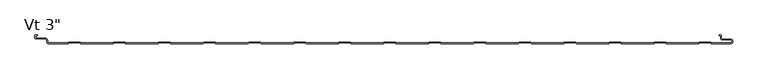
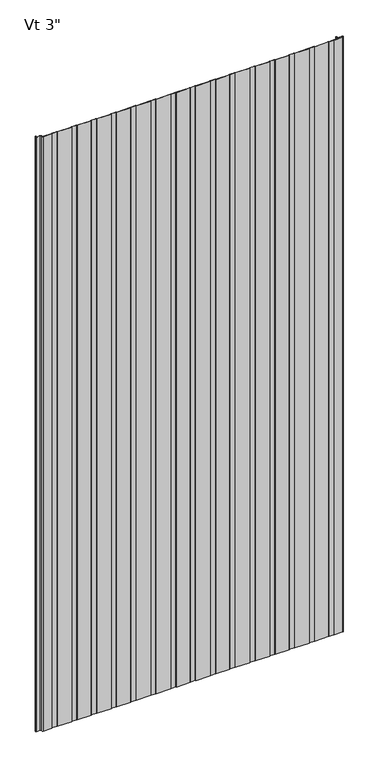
"""IFC4 building model written with IfcOpenShell, lengths in millimetres: plate geometry."""

from ifc_helpers import new_model, si_unit, frame, origin, place, context, project, spatial, polyline, circle_curve, source, transform, mapped, element, save
from ifc_brep_helpers import plane_surface, cylinder_surface, revolved_surface, advanced_brep


def plate_20951801(model_context):
    return source(origin(), model_context, "Body", "AdvancedBrep", [
        advanced_brep(
        [(390.6883592, -76.2, 2400.0), (445.2678137, -76.2, 2400.0), (446.3403385, -75.0088405, 2400.0), (465.2384546, -75.0088405, 2400.0), (466.3109794, -76.2, 2400.0), (520.890434, -76.2, 2400.0), (521.9629588, -75.0088405, 2400.0), (540.8610749, -75.0088405, 2400.0), (541.9335958, -76.1999956, 2400.0), (574.5475652, -76.1999956, 2400.0), (577.5248337, -73.2227271, 2400.0), (577.5248337, -72.1806285, 2400.0), (574.5475652, -69.20336, 2400.0), (560.3591801, -69.20336, 2400.0), (558.7713036, -67.6154834, 2400.0), (558.7713036, -63.2950653, 2400.0), (557.1304042, -61.7065979, 2400.0), (554.7857432, -61.7065979, 2400.0), (554.7857432, -62.7060718, 2400.0), (557.1628365, -62.7060718, 2400.0), (557.7713037, -63.2950653, 2400.0), (557.7713037, -67.6154834, 2400.0), (560.3591801, -70.20336, 2400.0), (574.5475652, -70.20336, 2400.0), (576.5248337, -72.1806285, 2400.0), (576.5248337, -73.2227271, 2400.0), (574.5475652, -75.1999956, 2400.0), (542.3760351, -75.1999956, 2400.0), (541.3035142, -74.0088405, 2400.0), (521.5205195, -74.0088405, 2400.0), (520.4479947, -75.2, 2400.0), (466.7534187, -75.2, 2400.0), (465.6808939, -74.0088405, 2400.0), (445.8978992, -74.0088405, 2400.0), (444.8253744, -75.2, 2400.0), (391.1307985, -75.2, 2400.0), (390.0582736, -74.0088405, 2400.0), (370.275279, -74.0088405, 2400.0), (369.2027541, -75.2, 2400.0), (315.5081782, -75.2, 2400.0), (314.4356534, -74.0088405, 2400.0), (294.6526587, -74.0088405, 2400.0), (293.5801339, -75.2, 2400.0), (239.885558, -75.2, 2400.0), (238.8130331, -74.0088405, 2400.0), (219.0300384, -74.0088405, 2400.0), (217.9575136, -75.2, 2400.0), (164.2629377, -75.2, 2400.0), (163.1904129, -74.0088405, 2400.0), (143.4074182, -74.0088405, 2400.0), (142.3348933, -75.2, 2400.0), (88.6403174, -75.2, 2400.0), (87.5677926, -74.0088405, 2400.0), (67.7847979, -74.0088405, 2400.0), (66.7122731, -75.2, 2400.0), (13.0176972, -75.2, 2400.0), (11.9451723, -74.0088405, 2400.0), (-7.8378224, -74.0088405, 2400.0), (-8.9103472, -75.2, 2400.0), (-62.6049231, -75.2, 2400.0), (-63.6774479, -74.0088405, 2400.0), (-83.4604426, -74.0088405, 2400.0), (-84.5329675, -75.2, 2400.0), (-138.2275434, -75.2, 2400.0), (-139.3000682, -74.0088405, 2400.0), (-159.0830629, -74.0088405, 2400.0), (-160.1555877, -75.2, 2400.0), (-213.8501636, -75.2, 2400.0), (-214.9226885, -74.0088405, 2400.0), (-234.7056831, -74.0088405, 2400.0), (-235.778208, -75.2, 2400.0), (-289.4727839, -75.2, 2400.0), (-290.5453087, -74.0088405, 2400.0), (-310.3283034, -74.0088405, 2400.0), (-311.4008282, -75.2, 2400.0), (-365.0954042, -75.2, 2400.0), (-366.167929, -74.0088405, 2400.0), (-385.9509237, -74.0088405, 2400.0), (-387.0234485, -75.2, 2400.0), (-440.7180244, -75.2, 2400.0), (-441.7905493, -74.0088405, 2400.0), (-461.5735439, -74.0088405, 2400.0), (-462.6460688, -75.2, 2400.0), (-516.3406447, -75.2, 2400.0), (-517.4131695, -74.0088405, 2400.0), (-537.1961642, -74.0088405, 2400.0), (-538.268689, -75.2, 2400.0), (-570.43528, -75.2, 2400.0), (-572.4125474, -73.2227096, 2400.0), (-572.4125474, -70.9308258, 2400.0), (-576.3898159, -66.9535573, 2400.0), (-591.9862419, -66.9535573, 2400.0), (-592.5741185, -66.3656807, 2400.0), (-592.5741185, -63.294132, 2400.0), (-591.9862419, -62.7062555, 2400.0), (-589.6312064, -62.7062555, 2400.0), (-589.6312064, -61.7062555, 2400.0), (-591.9862419, -61.7062555, 2400.0), (-593.5741185, -63.294132, 2400.0), (-593.5741185, -66.3656807, 2400.0), (-591.9862419, -67.9535573, 2400.0), (-576.3898159, -67.9535573, 2400.0), (-573.4125474, -70.9308258, 2400.0), (-573.4125474, -73.2227096, 2400.0), (-570.4352807, -76.1999782, 2400.0), (-537.8262497, -76.2, 2400.0), (-536.7537249, -75.0088405, 2400.0), (-517.8556088, -75.0088405, 2400.0), (-516.783084, -76.2, 2400.0), (-462.2036295, -76.2, 2400.0), (-461.1311046, -75.0088405, 2400.0), (-442.2329886, -75.0088405, 2400.0), (-441.1604637, -76.2, 2400.0), (-386.5810092, -76.2, 2400.0), (-385.5084844, -75.0088405, 2400.0), (-366.6103683, -75.0088405, 2400.0), (-365.5378435, -76.2, 2400.0), (-310.9583889, -76.2, 2400.0), (-309.8858641, -75.0088405, 2400.0), (-290.987748, -75.0088405, 2400.0), (-289.9152232, -76.2, 2400.0), (-235.3357687, -76.2, 2400.0), (-234.2632438, -75.0088405, 2400.0), (-215.3651278, -75.0088405, 2400.0), (-214.2926029, -76.2, 2400.0), (-159.7131484, -76.2, 2400.0), (-158.6406236, -75.0088405, 2400.0), (-139.7425075, -75.0088405, 2400.0), (-138.6699827, -76.2, 2400.0), (-84.0905281, -76.2, 2400.0), (-83.0180033, -75.0088405, 2400.0), (-64.1198873, -75.0088405, 2400.0), (-63.0473624, -76.2, 2400.0), (-8.4679079, -76.2, 2400.0), (-7.395383, -75.0088405, 2400.0), (11.502733, -75.0088405, 2400.0), (12.5752578, -76.2, 2400.0), (67.1547124, -76.2, 2400.0), (68.2272372, -75.0088405, 2400.0), (87.1253533, -75.0088405, 2400.0), (88.1978781, -76.2, 2400.0), (142.7773327, -76.2, 2400.0), (143.8498575, -75.0088405, 2400.0), (162.7479735, -75.0088405, 2400.0), (163.8204984, -76.2, 2400.0), (218.3999529, -76.2, 2400.0), (219.4724778, -75.0088405, 2400.0), (238.3705938, -75.0088405, 2400.0), (239.4431186, -76.2, 2400.0), (294.0225732, -76.2, 2400.0), (295.095098, -75.0088405, 2400.0), (313.9932141, -75.0088405, 2400.0), (315.0657389, -76.2, 2400.0), (369.6451934, -76.2, 2400.0), (370.7177183, -75.0088405, 2400.0), (389.6158343, -75.0088405, 2400.0), (390.6883592, -76.2, 0.0), (389.6158343, -75.0088405, 0.0), (370.7177183, -75.0088405, 0.0), (369.6451934, -76.2, 0.0), (315.0657389, -76.2, 0.0), (313.9932141, -75.0088405, 0.0), (295.095098, -75.0088405, 0.0), (294.0225732, -76.2, 0.0), (239.4431186, -76.2, 0.0), (238.3705938, -75.0088405, 0.0), (219.4724778, -75.0088405, 0.0), (218.3999529, -76.2, 0.0), (163.8204984, -76.2, 0.0), (162.7479735, -75.0088405, 0.0), (143.8498575, -75.0088405, 0.0), (142.7773327, -76.2, 0.0), (88.1978781, -76.2, 0.0), (87.1253533, -75.0088405, 0.0), (68.2272372, -75.0088405, 0.0), (67.1547124, -76.2, 0.0), (12.5752578, -76.2, 0.0), (11.502733, -75.0088405, 0.0), (-7.395383, -75.0088405, 0.0), (-8.4679079, -76.2, 0.0), (-63.0473624, -76.2, 0.0), (-64.1198873, -75.0088405, 0.0), (-83.0180033, -75.0088405, 0.0), (-84.0905281, -76.2, 0.0), (-138.6699827, -76.2, 0.0), (-139.7425075, -75.0088405, 0.0), (-158.6406236, -75.0088405, 0.0), (-159.7131484, -76.2, 0.0), (-214.2926029, -76.2, 0.0), (-215.3651278, -75.0088405, 0.0), (-234.2632438, -75.0088405, 0.0), (-235.3357687, -76.2, 0.0), (-289.9152232, -76.2, 0.0), (-290.987748, -75.0088405, 0.0), (-309.8858641, -75.0088405, 0.0), (-310.9583889, -76.2, 0.0), (-365.5378435, -76.2, 0.0), (-366.6103683, -75.0088405, 0.0), (-385.5084844, -75.0088405, 0.0), (-386.5810092, -76.2, 0.0), (-441.1604637, -76.2, 0.0), (-442.2329886, -75.0088405, 0.0), (-461.1311046, -75.0088405, 0.0), (-462.2036295, -76.2, 0.0), (-516.783084, -76.2, 0.0), (-517.8556088, -75.0088405, 0.0), (-536.7537249, -75.0088405, 0.0), (-537.8262497, -76.2, 0.0), (-570.4352807, -76.2, 0.0), (-573.4125474, -73.2227096, 0.0), (-573.4125474, -70.9308258, 0.0), (-576.3898159, -67.9535573, 0.0), (-591.9862419, -67.9535573, 0.0), (-593.5741185, -66.3656807, 0.0), (-593.5741185, -63.294132, 0.0), (-591.9862419, -61.7062555, 0.0), (-589.6312064, -61.7062555, 0.0), (-589.6312064, -62.7062555, 0.0), (-591.9862419, -62.7062555, 0.0), (-592.5741185, -63.294132, 0.0), (-592.5741185, -66.3656807, 0.0), (-591.9862419, -66.9535573, 0.0), (-576.3898159, -66.9535573, 0.0), (-572.4125474, -70.9308258, 0.0), (-572.4125474, -73.2227096, 0.0), (-570.43528, -75.1999782, 0.0), (-538.268689, -75.2, 0.0), (-537.1961642, -74.0088405, 0.0), (-517.4131695, -74.0088405, 0.0), (-516.3406447, -75.2, 0.0), (-462.6460688, -75.2, 0.0), (-461.5735439, -74.0088405, 0.0), (-441.7905493, -74.0088405, 0.0), (-440.7180244, -75.2, 0.0), (-387.0234485, -75.2, 0.0), (-385.9509237, -74.0088405, 0.0), (-366.167929, -74.0088405, 0.0), (-365.0954042, -75.2, 0.0), (-311.4008282, -75.2, 0.0), (-310.3283034, -74.0088405, 0.0), (-290.5453087, -74.0088405, 0.0), (-289.4727839, -75.2, 0.0), (-235.778208, -75.2, 0.0), (-234.7056831, -74.0088405, 0.0), (-214.9226885, -74.0088405, 0.0), (-213.8501636, -75.2, 0.0), (-160.1555877, -75.2, 0.0), (-159.0830629, -74.0088405, 0.0), (-139.3000682, -74.0088405, 0.0), (-138.2275434, -75.2, 0.0), (-84.5329675, -75.2, 0.0), (-83.4604426, -74.0088405, 0.0), (-63.6774479, -74.0088405, 0.0), (-62.6049231, -75.2, 0.0), (-8.9103472, -75.2, 0.0), (-7.8378224, -74.0088405, 0.0), (11.9451723, -74.0088405, 0.0), (13.0176972, -75.2, 0.0), (66.7122731, -75.2, 0.0), (67.7847979, -74.0088405, 0.0), (87.5677926, -74.0088405, 0.0), (88.6403174, -75.2, 0.0), (142.3348933, -75.2, 0.0), (143.4074182, -74.0088405, 0.0), (163.1904129, -74.0088405, 0.0), (164.2629377, -75.2, 0.0), (217.9575136, -75.2, 0.0), (219.0300384, -74.0088405, 0.0), (238.8130331, -74.0088405, 0.0), (239.885558, -75.2, 0.0), (293.5801339, -75.2, 0.0), (294.6526587, -74.0088405, 0.0), (314.4356534, -74.0088405, 0.0), (315.5081782, -75.2, 0.0), (369.2027541, -75.2, 0.0), (370.275279, -74.0088405, 0.0), (390.0582736, -74.0088405, 0.0), (391.1307985, -75.2, 0.0), (444.8253744, -75.2, 0.0), (445.8978992, -74.0088405, 0.0), (465.6808939, -74.0088405, 0.0), (466.7534187, -75.2, 0.0), (520.4479947, -75.2, 0.0), (521.5205195, -74.0088405, 0.0), (541.3035142, -74.0088405, 0.0), (542.3760351, -75.1999956, 0.0), (574.5475652, -75.1999956, 0.0), (576.5248337, -73.2227271, 0.0), (576.5248337, -72.1806285, 0.0), (574.5475652, -70.20336, 0.0), (560.3591801, -70.20336, 0.0), (557.7713036, -67.6154834, 0.0), (557.7713037, -63.2950653, 0.0), (557.1628365, -62.7060718, 0.0), (554.7857432, -62.7060718, 0.0), (554.7857432, -61.7065979, 0.0), (557.1304042, -61.7065979, 0.0), (558.7713037, -63.2950653, 0.0), (558.7713036, -67.6154834, 0.0), (560.3591801, -69.20336, 0.0), (574.5475652, -69.20336, 0.0), (577.5248337, -72.1806285, 0.0), (577.5248337, -73.2227271, 0.0), (574.5475652, -76.1999956, 0.0), (541.9335958, -76.1999956, 0.0), (540.8610749, -75.0088405, 0.0), (521.9629588, -75.0088405, 0.0), (520.890434, -76.2, 0.0), (466.3109794, -76.2, 0.0), (465.2384546, -75.0088405, 0.0), (446.3403385, -75.0088405, 0.0), (445.2678137, -76.2, 0.0)],
        [
            (0, 1),
            (1, 2),
            (2, 3),
            (3, 4),
            (4, 5),
            (5, 6),
            (6, 7),
            (7, 8),
            (8, 9),
            (9, 10, circle_curve(frame((574.5475652, -73.2227271, 2400.0), z_axis=(0.0, 0.0, 1.0), x_axis=(-1.0, 0.0, 0.0)), 2.9772685)),
            (10, 11),
            (11, 12, circle_curve(frame((574.5475652, -72.1806285, 2400.0), z_axis=(0.0, 0.0, 1.0), x_axis=(-1.0, 0.0, 0.0)), 2.9772685)),
            (12, 13),
            (13, 14, circle_curve(frame((560.3591801, -67.6154834, 2400.0), z_axis=(0.0, 0.0, -1.0), x_axis=(-1.0, 0.0, 0.0)), 1.5878765)),
            (14, 15),
            (15, 16, circle_curve(frame((557.1819985, -63.2950653, 2400.0), z_axis=(0.0, 0.0, 1.0), x_axis=(-1.0, 0.0, 0.0)), 1.5893052)),
            (16, 17),
            (17, 18),
            (18, 19),
            (19, 20, circle_curve(frame((557.1819985, -63.2950653, 2400.0), z_axis=(0.0, 0.0, -1.0), x_axis=(-1.0, 0.0, 0.0)), 0.5893052)),
            (20, 21),
            (21, 22, circle_curve(frame((560.3591801, -67.6154834, 2400.0), z_axis=(0.0, 0.0, 1.0), x_axis=(-1.0, 0.0, 0.0)), 2.5878765)),
            (22, 23),
            (23, 24, circle_curve(frame((574.5475652, -72.1806285, 2400.0), z_axis=(0.0, 0.0, -1.0), x_axis=(-1.0, 0.0, 0.0)), 1.9772685)),
            (24, 25),
            (25, 26, circle_curve(frame((574.5475652, -73.2227271, 2400.0), z_axis=(0.0, 0.0, -1.0), x_axis=(-1.0, 0.0, 0.0)), 1.9772685)),
            (26, 27),
            (27, 28),
            (28, 29),
            (29, 30),
            (30, 31),
            (31, 32),
            (32, 33),
            (33, 34),
            (34, 35),
            (35, 36),
            (36, 37),
            (37, 38),
            (38, 39),
            (39, 40),
            (40, 41),
            (41, 42),
            (42, 43),
            (43, 44),
            (44, 45),
            (45, 46),
            (46, 47),
            (47, 48),
            (48, 49),
            (49, 50),
            (50, 51),
            (51, 52),
            (52, 53),
            (53, 54),
            (54, 55),
            (55, 56),
            (56, 57),
            (57, 58),
            (58, 59),
            (59, 60),
            (60, 61),
            (61, 62),
            (62, 63),
            (63, 64),
            (64, 65),
            (65, 66),
            (66, 67),
            (67, 68),
            (68, 69),
            (69, 70),
            (70, 71),
            (71, 72),
            (72, 73),
            (73, 74),
            (74, 75),
            (75, 76),
            (76, 77),
            (77, 78),
            (78, 79),
            (79, 80),
            (80, 81),
            (81, 82),
            (82, 83),
            (83, 84),
            (84, 85),
            (85, 86),
            (86, 87),
            (87, 88, circle_curve(frame((-570.4352788, -73.2227096, 2400.0), z_axis=(0.0, 0.0, -1.0), x_axis=(-1.0, 0.0, 0.0)), 1.9772685)),
            (88, 89),
            (89, 90, circle_curve(frame((-576.3898159, -70.9308258, 2400.0), z_axis=(0.0, 0.0, 1.0), x_axis=(-1.0, 0.0, 0.0)), 3.9772685)),
            (90, 91),
            (91, 92, circle_curve(frame((-591.9862419, -66.3656807, 2400.0), z_axis=(0.0, 0.0, -1.0), x_axis=(-1.0, 0.0, 0.0)), 0.5878765)),
            (92, 93),
            (93, 94, circle_curve(frame((-591.9862419, -63.294132, 2400.0), z_axis=(0.0, 0.0, -1.0), x_axis=(-1.0, 0.0, 0.0)), 0.5878765)),
            (94, 95),
            (95, 96),
            (96, 97),
            (97, 98, circle_curve(frame((-591.9862419, -63.294132, 2400.0), z_axis=(0.0, 0.0, 1.0), x_axis=(-1.0, 0.0, 0.0)), 1.5878765)),
            (98, 99),
            (99, 100, circle_curve(frame((-591.9862419, -66.3656807, 2400.0), z_axis=(0.0, 0.0, 1.0), x_axis=(-1.0, 0.0, 0.0)), 1.5878765)),
            (100, 101),
            (101, 102, circle_curve(frame((-576.3898159, -70.9308258, 2400.0), z_axis=(0.0, 0.0, -1.0), x_axis=(-1.0, 0.0, 0.0)), 2.9772685)),
            (102, 103),
            (103, 104, circle_curve(frame((-570.4352789, -73.2227096, 2400.0), z_axis=(0.0, 0.0, 1.0), x_axis=(-1.0, 0.0, 0.0)), 2.9772685)),
            (104, 105),
            (105, 106),
            (106, 107),
            (107, 108),
            (108, 109),
            (109, 110),
            (110, 111),
            (111, 112),
            (112, 113),
            (113, 114),
            (114, 115),
            (115, 116),
            (116, 117),
            (117, 118),
            (118, 119),
            (119, 120),
            (120, 121),
            (121, 122),
            (122, 123),
            (123, 124),
            (124, 125),
            (125, 126),
            (126, 127),
            (127, 128),
            (128, 129),
            (129, 130),
            (130, 131),
            (131, 132),
            (132, 133),
            (133, 134),
            (134, 135),
            (135, 136),
            (136, 137),
            (137, 138),
            (138, 139),
            (139, 140),
            (140, 141),
            (141, 142),
            (142, 143),
            (143, 144),
            (144, 145),
            (145, 146),
            (146, 147),
            (147, 148),
            (148, 149),
            (149, 150),
            (150, 151),
            (151, 152),
            (152, 153),
            (153, 154),
            (154, 155),
            (155, 0),
            (156, 157),
            (157, 158),
            (158, 159),
            (159, 160),
            (160, 161),
            (161, 162),
            (162, 163),
            (163, 164),
            (164, 165),
            (165, 166),
            (166, 167),
            (167, 168),
            (168, 169),
            (169, 170),
            (170, 171),
            (171, 172),
            (172, 173),
            (173, 174),
            (174, 175),
            (175, 176),
            (176, 177),
            (177, 178),
            (178, 179),
            (179, 180),
            (180, 181),
            (181, 182),
            (182, 183),
            (183, 184),
            (184, 185),
            (185, 186),
            (186, 187),
            (187, 188),
            (188, 189),
            (189, 190),
            (190, 191),
            (191, 192),
            (192, 193),
            (193, 194),
            (194, 195),
            (195, 196),
            (196, 197),
            (197, 198),
            (198, 199),
            (199, 200),
            (200, 201),
            (201, 202),
            (202, 203),
            (203, 204),
            (204, 205),
            (205, 206),
            (206, 207),
            (207, 208),
            (208, 209, circle_curve(frame((-570.4352789, -73.2227096, 0.0), z_axis=(0.0, 0.0, -1.0), x_axis=(-1.0, 0.0, 0.0)), 2.9772685)),
            (209, 210),
            (210, 211, circle_curve(frame((-576.3898159, -70.9308258, 0.0), z_axis=(0.0, 0.0, 1.0), x_axis=(-1.0, 0.0, 0.0)), 2.9772685)),
            (211, 212),
            (212, 213, circle_curve(frame((-591.9862419, -66.3656807, 0.0), z_axis=(0.0, 0.0, -1.0), x_axis=(-1.0, 0.0, 0.0)), 1.5878765)),
            (213, 214),
            (214, 215, circle_curve(frame((-591.9862419, -63.294132, 0.0), z_axis=(0.0, 0.0, -1.0), x_axis=(-1.0, 0.0, 0.0)), 1.5878765)),
            (215, 216),
            (216, 217),
            (217, 218),
            (218, 219, circle_curve(frame((-591.9862419, -63.294132, 0.0), z_axis=(0.0, 0.0, 1.0), x_axis=(-1.0, 0.0, 0.0)), 0.5878765)),
            (219, 220),
            (220, 221, circle_curve(frame((-591.9862419, -66.3656807, 0.0), z_axis=(0.0, 0.0, 1.0), x_axis=(-1.0, 0.0, 0.0)), 0.5878765)),
            (221, 222),
            (222, 223, circle_curve(frame((-576.3898159, -70.9308258, 0.0), z_axis=(0.0, 0.0, -1.0), x_axis=(-1.0, 0.0, 0.0)), 3.9772685)),
            (223, 224),
            (224, 225, circle_curve(frame((-570.4352788, -73.2227096, 0.0), z_axis=(0.0, 0.0, 1.0), x_axis=(-1.0, 0.0, 0.0)), 1.9772685)),
            (225, 226),
            (226, 227),
            (227, 228),
            (228, 229),
            (229, 230),
            (230, 231),
            (231, 232),
            (232, 233),
            (233, 234),
            (234, 235),
            (235, 236),
            (236, 237),
            (237, 238),
            (238, 239),
            (239, 240),
            (240, 241),
            (241, 242),
            (242, 243),
            (243, 244),
            (244, 245),
            (245, 246),
            (246, 247),
            (247, 248),
            (248, 249),
            (249, 250),
            (250, 251),
            (251, 252),
            (252, 253),
            (253, 254),
            (254, 255),
            (255, 256),
            (256, 257),
            (257, 258),
            (258, 259),
            (259, 260),
            (260, 261),
            (261, 262),
            (262, 263),
            (263, 264),
            (264, 265),
            (265, 266),
            (266, 267),
            (267, 268),
            (268, 269),
            (269, 270),
            (270, 271),
            (271, 272),
            (272, 273),
            (273, 274),
            (274, 275),
            (275, 276),
            (276, 277),
            (277, 278),
            (278, 279),
            (279, 280),
            (280, 281),
            (281, 282),
            (282, 283),
            (283, 284),
            (284, 285),
            (285, 286),
            (286, 287, circle_curve(frame((574.5475652, -73.2227271, 0.0), z_axis=(0.0, 0.0, 1.0), x_axis=(-1.0, 0.0, 0.0)), 1.9772685)),
            (287, 288),
            (288, 289, circle_curve(frame((574.5475652, -72.1806285, 0.0), z_axis=(0.0, 0.0, 1.0), x_axis=(-1.0, 0.0, 0.0)), 1.9772685)),
            (289, 290),
            (290, 291, circle_curve(frame((560.3591801, -67.6154834, 0.0), z_axis=(0.0, 0.0, -1.0), x_axis=(-1.0, 0.0, 0.0)), 2.5878765)),
            (291, 292),
            (292, 293, circle_curve(frame((557.1819985, -63.2950653, 0.0), z_axis=(0.0, 0.0, 1.0), x_axis=(-1.0, 0.0, 0.0)), 0.5893052)),
            (293, 294),
            (294, 295),
            (295, 296),
            (296, 297, circle_curve(frame((557.1819985, -63.2950653, 0.0), z_axis=(0.0, 0.0, -1.0), x_axis=(-1.0, 0.0, 0.0)), 1.5893052)),
            (297, 298),
            (298, 299, circle_curve(frame((560.3591801, -67.6154834, 0.0), z_axis=(0.0, 0.0, 1.0), x_axis=(-1.0, 0.0, 0.0)), 1.5878765)),
            (299, 300),
            (300, 301, circle_curve(frame((574.5475652, -72.1806285, 0.0), z_axis=(0.0, 0.0, -1.0), x_axis=(-1.0, 0.0, 0.0)), 2.9772685)),
            (301, 302),
            (302, 303, circle_curve(frame((574.5475652, -73.2227271, 0.0), z_axis=(0.0, 0.0, -1.0), x_axis=(-1.0, 0.0, 0.0)), 2.9772685)),
            (303, 304),
            (304, 305),
            (305, 306),
            (306, 307),
            (307, 308),
            (308, 309),
            (309, 310),
            (310, 311),
            (311, 156),
            (0, 156),
            (311, 1),
            (34, 278),
            (277, 35),
            (64, 248),
            (247, 65),
            (124, 188),
            (187, 125),
            (66, 246),
            (245, 67),
            (123, 189),
            (244, 68),
            (121, 191),
            (190, 122),
            (69, 243),
            (242, 70),
            (120, 192),
            (241, 71),
            (119, 193),
            (240, 72),
            (137, 175),
            (174, 138),
            (53, 259),
            (258, 54),
            (173, 139),
            (52, 260),
            (136, 176),
            (257, 55),
            (135, 177),
            (256, 56),
            (133, 179),
            (178, 134),
            (57, 255),
            (254, 58),
            (132, 180),
            (253, 59),
            (131, 181),
            (252, 60),
            (129, 183),
            (182, 130),
            (61, 251),
            (250, 62),
            (128, 184),
            (249, 63),
            (127, 185),
            (186, 126),
            (24, 288),
            (287, 25),
            (10, 302),
            (301, 11),
            (286, 26),
            (103, 209),
            (208, 104),
            (207, 105),
            (91, 221),
            (220, 92),
            (4, 308),
            (307, 5),
            (30, 282),
            (281, 31),
            (7, 305),
            (304, 8),
            (27, 285),
            (284, 28),
            (306, 6),
            (29, 283),
            (23, 289),
            (22, 290),
            (21, 291),
            (20, 292),
            (19, 293),
            (18, 294),
            (17, 295),
            (16, 296),
            (15, 297),
            (14, 298),
            (13, 299),
            (12, 300),
            (9, 303),
            (101, 211),
            (210, 102),
            (99, 213),
            (212, 100),
            (97, 215),
            (214, 98),
            (95, 217),
            (216, 96),
            (93, 219),
            (218, 94),
            (90, 222),
            (88, 224),
            (223, 89),
            (86, 226),
            (225, 87),
            (106, 206),
            (205, 107),
            (85, 227),
            (84, 228),
            (204, 108),
            (203, 109),
            (82, 230),
            (229, 83),
            (110, 202),
            (201, 111),
            (81, 231),
            (80, 232),
            (200, 112),
            (199, 113),
            (78, 234),
            (233, 79),
            (114, 198),
            (197, 115),
            (77, 235),
            (76, 236),
            (196, 116),
            (195, 117),
            (74, 238),
            (237, 75),
            (118, 194),
            (73, 239),
            (172, 140),
            (171, 141),
            (50, 262),
            (261, 51),
            (142, 170),
            (169, 143),
            (49, 263),
            (48, 264),
            (168, 144),
            (167, 145),
            (46, 266),
            (265, 47),
            (146, 166),
            (165, 147),
            (45, 267),
            (44, 268),
            (164, 148),
            (163, 149),
            (42, 270),
            (269, 43),
            (150, 162),
            (161, 151),
            (41, 271),
            (40, 272),
            (160, 152),
            (159, 153),
            (38, 274),
            (273, 39),
            (154, 158),
            (157, 155),
            (37, 275),
            (36, 276),
            (2, 310),
            (309, 3),
            (32, 280),
            (279, 33),
        ],
        [
            plane_surface(frame((0.0, -76.2, 2400.0), z_axis=(0.0, 0.0, 1.0), x_axis=(0.0, -1.0, 0.0))),
            plane_surface(frame((0.0, -76.2, 0.0), z_axis=(0.0, 0.0, -1.0), x_axis=(0.0, -1.0, 0.0))),
            plane_surface(frame((445.2678137, -76.2, 2400.0), z_axis=(0.0, -1.0, 0.0), x_axis=(0.0, 0.0, -1.0))),
            plane_surface(frame((391.1307985, -75.2, 2400.0), z_axis=(0.0, 1.0, 0.0), x_axis=(0.0, 0.0, -1.0))),
            plane_surface(frame((-159.0830629, -74.0088405, 2400.0), z_axis=(0.0, 1.0, 0.0), x_axis=(0.0, 0.0, -1.0))),
            plane_surface(frame((-159.7131484, -76.2, 2400.0), z_axis=(0.0, -1.0, 0.0), x_axis=(0.0, 0.0, -1.0))),
            plane_surface(frame((-213.8501636, -75.2, 2400.0), z_axis=(0.0, 1.0, 0.0), x_axis=(0.0, 0.0, -1.0))),
            plane_surface(frame((-214.2926029, -76.2, 2400.0), z_axis=(-0.7431448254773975, -0.6691306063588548, 0.0), x_axis=(0.0, 0.0, -1.0))),
            plane_surface(frame((-214.9226885, -74.0088405, 2400.0), z_axis=(0.7431448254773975, 0.6691306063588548, 0.0), x_axis=(0.0, 0.0, -1.0))),
            plane_surface(frame((-234.2632438, -75.0088405, 2400.0), z_axis=(0.7431448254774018, -0.66913060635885, 0.0), x_axis=(0.0, 0.0, -1.0))),
            plane_surface(frame((-235.778208, -75.2, 2400.0), z_axis=(-0.7431448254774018, 0.66913060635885, 0.0), x_axis=(0.0, 0.0, -1.0))),
            plane_surface(frame((-215.3651278, -75.0088405, 2400.0), z_axis=(0.0, -1.0, 0.0), x_axis=(0.0, 0.0, -1.0))),
            plane_surface(frame((-234.7056831, -74.0088405, 2400.0), z_axis=(0.0, 1.0, 0.0), x_axis=(0.0, 0.0, -1.0))),
            plane_surface(frame((-235.3357687, -76.2, 2400.0), z_axis=(0.0, -1.0, 0.0), x_axis=(0.0, 0.0, -1.0))),
            plane_surface(frame((-289.4727839, -75.2, 2400.0), z_axis=(0.0, 1.0, 0.0), x_axis=(0.0, 0.0, -1.0))),
            plane_surface(frame((-289.9152232, -76.2, 2400.0), z_axis=(-0.7431448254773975, -0.6691306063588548, 0.0), x_axis=(0.0, 0.0, -1.0))),
            plane_surface(frame((-290.5453087, -74.0088405, 2400.0), z_axis=(0.7431448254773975, 0.6691306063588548, 0.0), x_axis=(0.0, 0.0, -1.0))),
            plane_surface(frame((68.2272372, -75.0088405, 2400.0), z_axis=(0.7431448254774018, -0.66913060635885, 0.0), x_axis=(0.0, 0.0, -1.0))),
            plane_surface(frame((66.7122731, -75.2, 2400.0), z_axis=(-0.7431448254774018, 0.66913060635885, 0.0), x_axis=(0.0, 0.0, -1.0))),
            plane_surface(frame((87.1253533, -75.0088405, 2400.0), z_axis=(0.0, -1.0, 0.0), x_axis=(0.0, 0.0, -1.0))),
            plane_surface(frame((67.7847979, -74.0088405, 2400.0), z_axis=(0.0, 1.0, 0.0), x_axis=(0.0, 0.0, -1.0))),
            plane_surface(frame((67.1547124, -76.2, 2400.0), z_axis=(0.0, -1.0, 0.0), x_axis=(0.0, 0.0, -1.0))),
            plane_surface(frame((13.0176972, -75.2, 2400.0), z_axis=(0.0, 1.0, 0.0), x_axis=(0.0, 0.0, -1.0))),
            plane_surface(frame((12.5752578, -76.2, 2400.0), z_axis=(-0.7431448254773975, -0.6691306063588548, 0.0), x_axis=(0.0, 0.0, -1.0))),
            plane_surface(frame((11.9451723, -74.0088405, 2400.0), z_axis=(0.7431448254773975, 0.6691306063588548, 0.0), x_axis=(0.0, 0.0, -1.0))),
            plane_surface(frame((-7.395383, -75.0088405, 2400.0), z_axis=(0.7431448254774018, -0.66913060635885, 0.0), x_axis=(0.0, 0.0, -1.0))),
            plane_surface(frame((-8.9103472, -75.2, 2400.0), z_axis=(-0.7431448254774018, 0.66913060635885, 0.0), x_axis=(0.0, 0.0, -1.0))),
            plane_surface(frame((11.502733, -75.0088405, 2400.0), z_axis=(0.0, -1.0, 0.0), x_axis=(0.0, 0.0, -1.0))),
            plane_surface(frame((-7.8378224, -74.0088405, 2400.0), z_axis=(0.0, 1.0, 0.0), x_axis=(0.0, 0.0, -1.0))),
            plane_surface(frame((-8.4679079, -76.2, 2400.0), z_axis=(0.0, -1.0, 0.0), x_axis=(0.0, 0.0, -1.0))),
            plane_surface(frame((-62.6049231, -75.2, 2400.0), z_axis=(0.0, 1.0, 0.0), x_axis=(0.0, 0.0, -1.0))),
            plane_surface(frame((-63.0473624, -76.2, 2400.0), z_axis=(-0.7431448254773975, -0.6691306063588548, 0.0), x_axis=(0.0, 0.0, -1.0))),
            plane_surface(frame((-63.6774479, -74.0088405, 2400.0), z_axis=(0.7431448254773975, 0.6691306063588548, 0.0), x_axis=(0.0, 0.0, -1.0))),
            plane_surface(frame((-83.0180033, -75.0088405, 2400.0), z_axis=(0.7431448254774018, -0.66913060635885, 0.0), x_axis=(0.0, 0.0, -1.0))),
            plane_surface(frame((-84.5329675, -75.2, 2400.0), z_axis=(-0.7431448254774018, 0.66913060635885, 0.0), x_axis=(0.0, 0.0, -1.0))),
            plane_surface(frame((-64.1198873, -75.0088405, 2400.0), z_axis=(0.0, -1.0, 0.0), x_axis=(0.0, 0.0, -1.0))),
            plane_surface(frame((-83.4604426, -74.0088405, 2400.0), z_axis=(0.0, 1.0, 0.0), x_axis=(0.0, 0.0, -1.0))),
            plane_surface(frame((-84.0905281, -76.2, 2400.0), z_axis=(0.0, -1.0, 0.0), x_axis=(0.0, 0.0, -1.0))),
            plane_surface(frame((-138.2275434, -75.2, 2400.0), z_axis=(0.0, 1.0, 0.0), x_axis=(0.0, 0.0, -1.0))),
            plane_surface(frame((-138.6699827, -76.2, 2400.0), z_axis=(-0.7431448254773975, -0.6691306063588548, 0.0), x_axis=(0.0, 0.0, -1.0))),
            plane_surface(frame((-139.3000682, -74.0088405, 2400.0), z_axis=(0.7431448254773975, 0.6691306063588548, 0.0), x_axis=(0.0, 0.0, -1.0))),
            plane_surface(frame((-158.6406236, -75.0088405, 2400.0), z_axis=(0.7431448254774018, -0.66913060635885, 0.0), x_axis=(0.0, 0.0, -1.0))),
            plane_surface(frame((-160.1555877, -75.2, 2400.0), z_axis=(-0.7431448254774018, 0.66913060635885, 0.0), x_axis=(0.0, 0.0, -1.0))),
            plane_surface(frame((-139.7425075, -75.0088405, 2400.0), z_axis=(0.0, -1.0, 0.0), x_axis=(0.0, 0.0, -1.0))),
            plane_surface(frame((576.5248337, -73.2227271, 2400.0), z_axis=(-1.0, 0.0, 0.0), x_axis=(0.0, 0.0, -1.0))),
            plane_surface(frame((577.5248337, -72.1806285, 2400.0), z_axis=(1.0, 0.0, 0.0), x_axis=(0.0, 0.0, -1.0))),
            revolved_surface(polyline([(572.5702967, -73.2227271, 0.0), (572.5702967, -73.2227271, 2400.0)]), (574.5475652, -73.2227271, 2400.0), (0.0, 0.0, -1.0)),
            cylinder_surface(frame((-570.4352789, -73.2227096, 2400.0), z_axis=(0.0, 0.0, 1.0), x_axis=(-1.0, 0.0, 0.0)), 2.9772685),
            plane_surface(frame((-537.8262497, -76.2, 2400.0), z_axis=(0.0, -1.0, 0.0), x_axis=(0.0, 0.0, -1.0))),
            revolved_surface(polyline([(-592.5741184, -66.3656807, 0.0), (-592.5741184, -66.3656807, 2400.0)]), (-591.9862419, -66.3656807, 2400.0), (0.0, 0.0, -1.0)),
            plane_surface(frame((520.890434, -76.2, 2400.0), z_axis=(0.0, -1.0, 0.0), x_axis=(0.0, 0.0, -1.0))),
            plane_surface(frame((466.7534187, -75.2, 2400.0), z_axis=(0.0, 1.0, 0.0), x_axis=(0.0, 0.0, -1.0))),
            plane_surface(frame((541.9335958, -76.1999956, 2400.0), z_axis=(-0.7431448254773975, -0.6691306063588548, 0.0), x_axis=(0.0, 0.0, -1.0))),
            plane_surface(frame((541.3035142, -74.0088405, 2400.0), z_axis=(0.7431448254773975, 0.6691306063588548, 0.0), x_axis=(0.0, 0.0, -1.0))),
            plane_surface(frame((521.9629588, -75.0088405, 2400.0), z_axis=(0.7431448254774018, -0.66913060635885, 0.0), x_axis=(0.0, 0.0, -1.0))),
            plane_surface(frame((520.4479947, -75.2, 2400.0), z_axis=(-0.7431448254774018, 0.66913060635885, 0.0), x_axis=(0.0, 0.0, -1.0))),
            plane_surface(frame((540.8610749, -75.0088405, 2400.0), z_axis=(0.0, -1.0, 0.0), x_axis=(0.0, 0.0, -1.0))),
            plane_surface(frame((521.5205195, -74.0088405, 2400.0), z_axis=(0.0, 1.0, 0.0), x_axis=(0.0, 0.0, -1.0))),
            plane_surface(frame((542.3760351, -75.1999956, 2400.0), z_axis=(0.0, 1.0, 0.0), x_axis=(0.0, 0.0, -1.0))),
            revolved_surface(polyline([(572.5702967, -72.1806285, 0.0), (572.5702967, -72.1806285, 2400.0)]), (574.5475652, -72.1806285, 2400.0), (0.0, 0.0, -1.0)),
            plane_surface(frame((574.5475652, -70.20336, 2400.0), z_axis=(0.0, -1.0, 0.0), x_axis=(0.0, 0.0, -1.0))),
            cylinder_surface(frame((560.3591801, -67.6154834, 2400.0), z_axis=(0.0, 0.0, 1.0), x_axis=(-1.0, 0.0, 0.0)), 2.5878765),
            plane_surface(frame((557.7713037, -67.6154834, 2400.0), z_axis=(-1.0, 0.0, 0.0), x_axis=(0.0, 0.0, -1.0))),
            revolved_surface(polyline([(556.5926933, -63.2950653, 0.0), (556.5926933, -63.2950653, 2400.0)]), (557.1819985, -63.2950653, 2400.0), (0.0, 0.0, -1.0)),
            plane_surface(frame((557.1628365, -62.7060718, 2400.0), z_axis=(0.0, -1.0, 0.0), x_axis=(0.0, 0.0, -1.0))),
            plane_surface(frame((554.7857432, -62.7060718, 2400.0), z_axis=(-1.0, 0.0, 0.0), x_axis=(0.0, 0.0, -1.0))),
            plane_surface(frame((554.7857432, -61.7065979, 2400.0), z_axis=(0.0, 1.0, 0.0), x_axis=(0.0, 0.0, -1.0))),
            cylinder_surface(frame((557.1819985, -63.2950653, 2400.0), z_axis=(0.0, 0.0, 1.0), x_axis=(-1.0, 0.0, 0.0)), 1.5893052),
            plane_surface(frame((558.7713036, -63.2950653, 2400.0), z_axis=(1.0, 0.0, 0.0), x_axis=(0.0, 0.0, -1.0))),
            revolved_surface(polyline([(558.7713036, -67.6154834, 0.0), (558.7713036, -67.6154834, 2400.0)]), (560.3591801, -67.6154834, 2400.0), (0.0, 0.0, -1.0)),
            plane_surface(frame((560.3591801, -69.20336, 2400.0), z_axis=(0.0, 1.0, 0.0), x_axis=(0.0, 0.0, -1.0))),
            cylinder_surface(frame((574.5475652, -72.1806285, 2400.0), z_axis=(0.0, 0.0, 1.0), x_axis=(-1.0, 0.0, 0.0)), 2.9772685),
            cylinder_surface(frame((574.5475652, -73.2227271, 2400.0), z_axis=(0.0, 0.0, 1.0), x_axis=(-1.0, 0.0, 0.0)), 2.9772685),
            plane_surface(frame((574.5475652, -76.1999956, 2400.0), z_axis=(0.0, -1.0, 0.0), x_axis=(0.0, 0.0, -1.0))),
            revolved_surface(polyline([(-579.3670844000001, -70.9308258, 0.0), (-579.3670844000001, -70.9308258, 2400.0)]), (-576.3898159, -70.9308258, 2400.0), (0.0, 0.0, -1.0)),
            cylinder_surface(frame((-591.9862419, -66.3656807, 2400.0), z_axis=(0.0, 0.0, 1.0), x_axis=(-1.0, 0.0, 0.0)), 1.5878765),
            plane_surface(frame((-576.3898159, -67.9535573, 2400.0), z_axis=(0.0, -1.0, 0.0), x_axis=(0.0, 0.0, -1.0))),
            plane_surface(frame((-573.4125474, -73.2227096, 2400.0), z_axis=(-1.0, 0.0, 0.0), x_axis=(0.0, 0.0, -1.0))),
            cylinder_surface(frame((-591.9862419, -63.294132, 2400.0), z_axis=(0.0, 0.0, 1.0), x_axis=(-1.0, 0.0, 0.0)), 1.5878765),
            plane_surface(frame((-589.6312064, -61.7062555, 2400.0), z_axis=(1.0, 0.0, 0.0), x_axis=(0.0, 0.0, -1.0))),
            plane_surface(frame((-591.9862419, -61.7062555, 2400.0), z_axis=(0.0, 1.0, 0.0), x_axis=(0.0, 0.0, -1.0))),
            plane_surface(frame((-593.5741185, -66.3656807, 2400.0), z_axis=(-1.0, 0.0, 0.0), x_axis=(0.0, 0.0, -1.0))),
            revolved_surface(polyline([(-592.5741184, -63.294132, 0.0), (-592.5741184, -63.294132, 2400.0)]), (-591.9862419, -63.294132, 2400.0), (0.0, 0.0, -1.0)),
            plane_surface(frame((-591.9862419, -66.9535573, 2400.0), z_axis=(0.0, 1.0, 0.0), x_axis=(0.0, 0.0, -1.0))),
            plane_surface(frame((-592.5741185, -63.294132, 2400.0), z_axis=(1.0, 0.0, 0.0), x_axis=(0.0, 0.0, -1.0))),
            plane_surface(frame((-589.6312064, -62.7062555, 2400.0), z_axis=(0.0, -1.0, 0.0), x_axis=(0.0, 0.0, -1.0))),
            plane_surface(frame((-572.4125474, -70.9308258, 2400.0), z_axis=(1.0, 0.0, 0.0), x_axis=(0.0, 0.0, -1.0))),
            plane_surface(frame((-570.43528, -75.2, 2400.0), z_axis=(0.0, 1.0, 0.0), x_axis=(0.0, 0.0, -1.0))),
            revolved_surface(polyline([(-572.4125473, -73.2227096, 0.0), (-572.4125473, -73.2227096, 2400.0)]), (-570.4352788, -73.2227096, 2400.0), (0.0, 0.0, -1.0)),
            cylinder_surface(frame((-576.3898159, -70.9308258, 2400.0), z_axis=(0.0, 0.0, 1.0), x_axis=(-1.0, 0.0, 0.0)), 3.9772685),
            plane_surface(frame((-517.8556088, -75.0088405, 2400.0), z_axis=(0.0, -1.0, 0.0), x_axis=(0.0, 0.0, -1.0))),
            plane_surface(frame((-536.7537249, -75.0088405, 2400.0), z_axis=(0.7431448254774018, -0.66913060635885, 0.0), x_axis=(0.0, 0.0, -1.0))),
            plane_surface(frame((-538.268689, -75.2, 2400.0), z_axis=(-0.7431448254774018, 0.66913060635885, 0.0), x_axis=(0.0, 0.0, -1.0))),
            plane_surface(frame((-537.1961642, -74.0088405, 2400.0), z_axis=(0.0, 1.0, 0.0), x_axis=(0.0, 0.0, -1.0))),
            plane_surface(frame((-516.783084, -76.2, 2400.0), z_axis=(-0.7431448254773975, -0.6691306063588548, 0.0), x_axis=(0.0, 0.0, -1.0))),
            plane_surface(frame((-462.2036295, -76.2, 2400.0), z_axis=(0.0, -1.0, 0.0), x_axis=(0.0, 0.0, -1.0))),
            plane_surface(frame((-516.3406447, -75.2, 2400.0), z_axis=(0.0, 1.0, 0.0), x_axis=(0.0, 0.0, -1.0))),
            plane_surface(frame((-517.4131695, -74.0088405, 2400.0), z_axis=(0.7431448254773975, 0.6691306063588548, 0.0), x_axis=(0.0, 0.0, -1.0))),
            plane_surface(frame((-442.2329886, -75.0088405, 2400.0), z_axis=(0.0, -1.0, 0.0), x_axis=(0.0, 0.0, -1.0))),
            plane_surface(frame((-461.1311046, -75.0088405, 2400.0), z_axis=(0.7431448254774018, -0.66913060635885, 0.0), x_axis=(0.0, 0.0, -1.0))),
            plane_surface(frame((-462.6460688, -75.2, 2400.0), z_axis=(-0.7431448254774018, 0.66913060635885, 0.0), x_axis=(0.0, 0.0, -1.0))),
            plane_surface(frame((-461.5735439, -74.0088405, 2400.0), z_axis=(0.0, 1.0, 0.0), x_axis=(0.0, 0.0, -1.0))),
            plane_surface(frame((-441.1604637, -76.2, 2400.0), z_axis=(-0.7431448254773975, -0.6691306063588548, 0.0), x_axis=(0.0, 0.0, -1.0))),
            plane_surface(frame((-386.5810092, -76.2, 2400.0), z_axis=(0.0, -1.0, 0.0), x_axis=(0.0, 0.0, -1.0))),
            plane_surface(frame((-440.7180244, -75.2, 2400.0), z_axis=(0.0, 1.0, 0.0), x_axis=(0.0, 0.0, -1.0))),
            plane_surface(frame((-441.7905493, -74.0088405, 2400.0), z_axis=(0.7431448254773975, 0.6691306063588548, 0.0), x_axis=(0.0, 0.0, -1.0))),
            plane_surface(frame((-366.6103683, -75.0088405, 2400.0), z_axis=(0.0, -1.0, 0.0), x_axis=(0.0, 0.0, -1.0))),
            plane_surface(frame((-385.5084844, -75.0088405, 2400.0), z_axis=(0.7431448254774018, -0.66913060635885, 0.0), x_axis=(0.0, 0.0, -1.0))),
            plane_surface(frame((-387.0234485, -75.2, 2400.0), z_axis=(-0.7431448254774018, 0.66913060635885, 0.0), x_axis=(0.0, 0.0, -1.0))),
            plane_surface(frame((-385.9509237, -74.0088405, 2400.0), z_axis=(0.0, 1.0, 0.0), x_axis=(0.0, 0.0, -1.0))),
            plane_surface(frame((-365.5378435, -76.2, 2400.0), z_axis=(-0.7431448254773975, -0.6691306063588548, 0.0), x_axis=(0.0, 0.0, -1.0))),
            plane_surface(frame((-310.9583889, -76.2, 2400.0), z_axis=(0.0, -1.0, 0.0), x_axis=(0.0, 0.0, -1.0))),
            plane_surface(frame((-365.0954042, -75.2, 2400.0), z_axis=(0.0, 1.0, 0.0), x_axis=(0.0, 0.0, -1.0))),
            plane_surface(frame((-366.167929, -74.0088405, 2400.0), z_axis=(0.7431448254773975, 0.6691306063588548, 0.0), x_axis=(0.0, 0.0, -1.0))),
            plane_surface(frame((-290.987748, -75.0088405, 2400.0), z_axis=(0.0, -1.0, 0.0), x_axis=(0.0, 0.0, -1.0))),
            plane_surface(frame((-309.8858641, -75.0088405, 2400.0), z_axis=(0.7431448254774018, -0.66913060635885, 0.0), x_axis=(0.0, 0.0, -1.0))),
            plane_surface(frame((-311.4008282, -75.2, 2400.0), z_axis=(-0.7431448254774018, 0.66913060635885, 0.0), x_axis=(0.0, 0.0, -1.0))),
            plane_surface(frame((-310.3283034, -74.0088405, 2400.0), z_axis=(0.0, 1.0, 0.0), x_axis=(0.0, 0.0, -1.0))),
            plane_surface(frame((88.1978781, -76.2, 2400.0), z_axis=(-0.7431448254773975, -0.6691306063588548, 0.0), x_axis=(0.0, 0.0, -1.0))),
            plane_surface(frame((142.7773327, -76.2, 2400.0), z_axis=(0.0, -1.0, 0.0), x_axis=(0.0, 0.0, -1.0))),
            plane_surface(frame((88.6403174, -75.2, 2400.0), z_axis=(0.0, 1.0, 0.0), x_axis=(0.0, 0.0, -1.0))),
            plane_surface(frame((87.5677926, -74.0088405, 2400.0), z_axis=(0.7431448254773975, 0.6691306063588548, 0.0), x_axis=(0.0, 0.0, -1.0))),
            plane_surface(frame((162.7479735, -75.0088405, 2400.0), z_axis=(0.0, -1.0, 0.0), x_axis=(0.0, 0.0, -1.0))),
            plane_surface(frame((143.8498575, -75.0088405, 2400.0), z_axis=(0.7431448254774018, -0.66913060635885, 0.0), x_axis=(0.0, 0.0, -1.0))),
            plane_surface(frame((142.3348933, -75.2, 2400.0), z_axis=(-0.7431448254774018, 0.66913060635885, 0.0), x_axis=(0.0, 0.0, -1.0))),
            plane_surface(frame((143.4074182, -74.0088405, 2400.0), z_axis=(0.0, 1.0, 0.0), x_axis=(0.0, 0.0, -1.0))),
            plane_surface(frame((163.8204984, -76.2, 2400.0), z_axis=(-0.7431448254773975, -0.6691306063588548, 0.0), x_axis=(0.0, 0.0, -1.0))),
            plane_surface(frame((218.3999529, -76.2, 2400.0), z_axis=(0.0, -1.0, 0.0), x_axis=(0.0, 0.0, -1.0))),
            plane_surface(frame((164.2629377, -75.2, 2400.0), z_axis=(0.0, 1.0, 0.0), x_axis=(0.0, 0.0, -1.0))),
            plane_surface(frame((163.1904129, -74.0088405, 2400.0), z_axis=(0.7431448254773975, 0.6691306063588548, 0.0), x_axis=(0.0, 0.0, -1.0))),
            plane_surface(frame((238.3705938, -75.0088405, 2400.0), z_axis=(0.0, -1.0, 0.0), x_axis=(0.0, 0.0, -1.0))),
            plane_surface(frame((219.4724778, -75.0088405, 2400.0), z_axis=(0.7431448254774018, -0.66913060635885, 0.0), x_axis=(0.0, 0.0, -1.0))),
            plane_surface(frame((217.9575136, -75.2, 2400.0), z_axis=(-0.7431448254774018, 0.66913060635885, 0.0), x_axis=(0.0, 0.0, -1.0))),
            plane_surface(frame((219.0300384, -74.0088405, 2400.0), z_axis=(0.0, 1.0, 0.0), x_axis=(0.0, 0.0, -1.0))),
            plane_surface(frame((239.4431186, -76.2, 2400.0), z_axis=(-0.7431448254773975, -0.6691306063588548, 0.0), x_axis=(0.0, 0.0, -1.0))),
            plane_surface(frame((294.0225732, -76.2, 2400.0), z_axis=(0.0, -1.0, 0.0), x_axis=(0.0, 0.0, -1.0))),
            plane_surface(frame((239.885558, -75.2, 2400.0), z_axis=(0.0, 1.0, 0.0), x_axis=(0.0, 0.0, -1.0))),
            plane_surface(frame((238.8130331, -74.0088405, 2400.0), z_axis=(0.7431448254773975, 0.6691306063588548, 0.0), x_axis=(0.0, 0.0, -1.0))),
            plane_surface(frame((313.9932141, -75.0088405, 2400.0), z_axis=(0.0, -1.0, 0.0), x_axis=(0.0, 0.0, -1.0))),
            plane_surface(frame((295.095098, -75.0088405, 2400.0), z_axis=(0.7431448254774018, -0.66913060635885, 0.0), x_axis=(0.0, 0.0, -1.0))),
            plane_surface(frame((293.5801339, -75.2, 2400.0), z_axis=(-0.7431448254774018, 0.66913060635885, 0.0), x_axis=(0.0, 0.0, -1.0))),
            plane_surface(frame((294.6526587, -74.0088405, 2400.0), z_axis=(0.0, 1.0, 0.0), x_axis=(0.0, 0.0, -1.0))),
            plane_surface(frame((315.0657389, -76.2, 2400.0), z_axis=(-0.7431448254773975, -0.6691306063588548, 0.0), x_axis=(0.0, 0.0, -1.0))),
            plane_surface(frame((369.6451934, -76.2, 2400.0), z_axis=(0.0, -1.0, 0.0), x_axis=(0.0, 0.0, -1.0))),
            plane_surface(frame((315.5081782, -75.2, 2400.0), z_axis=(0.0, 1.0, 0.0), x_axis=(0.0, 0.0, -1.0))),
            plane_surface(frame((314.4356534, -74.0088405, 2400.0), z_axis=(0.7431448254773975, 0.6691306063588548, 0.0), x_axis=(0.0, 0.0, -1.0))),
            plane_surface(frame((389.6158343, -75.0088405, 2400.0), z_axis=(0.0, -1.0, 0.0), x_axis=(0.0, 0.0, -1.0))),
            plane_surface(frame((370.7177183, -75.0088405, 2400.0), z_axis=(0.7431448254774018, -0.66913060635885, 0.0), x_axis=(0.0, 0.0, -1.0))),
            plane_surface(frame((369.2027541, -75.2, 2400.0), z_axis=(-0.7431448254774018, 0.66913060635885, 0.0), x_axis=(0.0, 0.0, -1.0))),
            plane_surface(frame((370.275279, -74.0088405, 2400.0), z_axis=(0.0, 1.0, 0.0), x_axis=(0.0, 0.0, -1.0))),
            plane_surface(frame((390.6883592, -76.2, 2400.0), z_axis=(-0.7431448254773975, -0.6691306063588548, 0.0), x_axis=(0.0, 0.0, -1.0))),
            plane_surface(frame((465.2384546, -75.0088405, 2400.0), z_axis=(0.0, -1.0, 0.0), x_axis=(0.0, 0.0, -1.0))),
            plane_surface(frame((445.8978992, -74.0088405, 2400.0), z_axis=(0.0, 1.0, 0.0), x_axis=(0.0, 0.0, -1.0))),
            plane_surface(frame((390.0582736, -74.0088405, 2400.0), z_axis=(0.7431448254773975, 0.6691306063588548, 0.0), x_axis=(0.0, 0.0, -1.0))),
            plane_surface(frame((446.3403385, -75.0088405, 2400.0), z_axis=(0.7431448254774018, -0.66913060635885, 0.0), x_axis=(0.0, 0.0, -1.0))),
            plane_surface(frame((466.3109794, -76.2, 2400.0), z_axis=(-0.7431448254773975, -0.6691306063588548, 0.0), x_axis=(0.0, 0.0, -1.0))),
            plane_surface(frame((465.6808939, -74.0088405, 2400.0), z_axis=(0.7431448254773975, 0.6691306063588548, 0.0), x_axis=(0.0, 0.0, -1.0))),
            plane_surface(frame((444.8253744, -75.2, 2400.0), z_axis=(-0.7431448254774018, 0.66913060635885, 0.0), x_axis=(0.0, 0.0, -1.0))),
        ],
        [
            (0, [[1, 2, 3, 4, 5, 6, 7, 8, 9, 10, 11, 12, 13, 14, 15, 16, 17, 18, 19, 20, 21, 22, 23, 24, 25, 26, 27, 28, 29, 30, 31, 32, 33, 34, 35, 36, 37, 38, 39, 40, 41, 42, 43, 44, 45, 46, 47, 48, 49, 50, 51, 52, 53, 54, 55, 56, 57, 58, 59, 60, 61, 62, 63, 64, 65, 66, 67, 68, 69, 70, 71, 72, 73, 74, 75, 76, 77, 78, 79, 80, 81, 82, 83, 84, 85, 86, 87, 88, 89, 90, 91, 92, 93, 94, 95, 96, 97, 98, 99, 100, 101, 102, 103, 104, 105, 106, 107, 108, 109, 110, 111, 112, 113, 114, 115, 116, 117, 118, 119, 120, 121, 122, 123, 124, 125, 126, 127, 128, 129, 130, 131, 132, 133, 134, 135, 136, 137, 138, 139, 140, 141, 142, 143, 144, 145, 146, 147, 148, 149, 150, 151, 152, 153, 154, 155, 156]]),
            (1, [[157, 158, 159, 160, 161, 162, 163, 164, 165, 166, 167, 168, 169, 170, 171, 172, 173, 174, 175, 176, 177, 178, 179, 180, 181, 182, 183, 184, 185, 186, 187, 188, 189, 190, 191, 192, 193, 194, 195, 196, 197, 198, 199, 200, 201, 202, 203, 204, 205, 206, 207, 208, 209, 210, 211, 212, 213, 214, 215, 216, 217, 218, 219, 220, 221, 222, 223, 224, 225, 226, 227, 228, 229, 230, 231, 232, 233, 234, 235, 236, 237, 238, 239, 240, 241, 242, 243, 244, 245, 246, 247, 248, 249, 250, 251, 252, 253, 254, 255, 256, 257, 258, 259, 260, 261, 262, 263, 264, 265, 266, 267, 268, 269, 270, 271, 272, 273, 274, 275, 276, 277, 278, 279, 280, 281, 282, 283, 284, 285, 286, 287, 288, 289, 290, 291, 292, 293, 294, 295, 296, 297, 298, 299, 300, 301, 302, 303, 304, 305, 306, 307, 308, 309, 310, 311, 312]]),
            (2, [[313, -312, 314, -1]]),
            (3, [[315, -278, 316, -35]]),
            (4, [[317, -248, 318, -65]]),
            (5, [[319, -188, 320, -125]]),
            (6, [[321, -246, 322, -67]]),
            (7, [[323, -189, -319, -124]]),
            (8, [[-322, -245, 324, -68]]),
            (9, [[325, -191, 326, -122]]),
            (10, [[327, -243, 328, -70]]),
            (11, [[-326, -190, -323, -123]]),
            (12, [[-324, -244, -327, -69]]),
            (13, [[329, -192, -325, -121]]),
            (14, [[-328, -242, 330, -71]]),
            (15, [[331, -193, -329, -120]]),
            (16, [[-330, -241, 332, -72]]),
            (17, [[333, -175, 334, -138]]),
            (18, [[335, -259, 336, -54]]),
            (19, [[-334, -174, 337, -139]]),
            (20, [[338, -260, -335, -53]]),
            (21, [[339, -176, -333, -137]]),
            (22, [[-336, -258, 340, -55]]),
            (23, [[341, -177, -339, -136]]),
            (24, [[-340, -257, 342, -56]]),
            (25, [[343, -179, 344, -134]]),
            (26, [[345, -255, 346, -58]]),
            (27, [[-344, -178, -341, -135]]),
            (28, [[-342, -256, -345, -57]]),
            (29, [[347, -180, -343, -133]]),
            (30, [[-346, -254, 348, -59]]),
            (31, [[349, -181, -347, -132]]),
            (32, [[-348, -253, 350, -60]]),
            (33, [[351, -183, 352, -130]]),
            (34, [[353, -251, 354, -62]]),
            (35, [[-352, -182, -349, -131]]),
            (36, [[-350, -252, -353, -61]]),
            (37, [[355, -184, -351, -129]]),
            (38, [[-354, -250, 356, -63]]),
            (39, [[357, -185, -355, -128]]),
            (40, [[-356, -249, -317, -64]]),
            (41, [[-320, -187, 358, -126]]),
            (42, [[-318, -247, -321, -66]]),
            (43, [[-358, -186, -357, -127]]),
            (44, [[359, -288, 360, -25]]),
            (45, [[361, -302, 362, -11]]),
            (46, [[-360, -287, 363, -26]]),
            (47, [[364, -209, 365, -104]]),
            (48, [[-365, -208, 366, -105]]),
            (49, [[367, -221, 368, -92]]),
            (50, [[369, -308, 370, -5]]),
            (51, [[371, -282, 372, -31]]),
            (52, [[373, -305, 374, -8]]),
            (53, [[375, -285, 376, -28]]),
            (54, [[-370, -307, 377, -6]]),
            (55, [[378, -283, -371, -30]]),
            (56, [[-377, -306, -373, -7]]),
            (57, [[-376, -284, -378, -29]]),
            (58, [[-363, -286, -375, -27]]),
            (59, [[379, -289, -359, -24]]),
            (60, [[380, -290, -379, -23]]),
            (61, [[381, -291, -380, -22]]),
            (62, [[382, -292, -381, -21]]),
            (63, [[383, -293, -382, -20]]),
            (64, [[384, -294, -383, -19]]),
            (65, [[385, -295, -384, -18]]),
            (66, [[386, -296, -385, -17]]),
            (67, [[387, -297, -386, -16]]),
            (68, [[388, -298, -387, -15]]),
            (69, [[389, -299, -388, -14]]),
            (70, [[390, -300, -389, -13]]),
            (71, [[-362, -301, -390, -12]]),
            (72, [[391, -303, -361, -10]]),
            (73, [[-374, -304, -391, -9]]),
            (74, [[392, -211, 393, -102]]),
            (75, [[394, -213, 395, -100]]),
            (76, [[-395, -212, -392, -101]]),
            (77, [[-393, -210, -364, -103]]),
            (78, [[396, -215, 397, -98]]),
            (79, [[398, -217, 399, -96]]),
            (80, [[-399, -216, -396, -97]]),
            (81, [[-397, -214, -394, -99]]),
            (82, [[400, -219, 401, -94]]),
            (83, [[402, -222, -367, -91]]),
            (84, [[-368, -220, -400, -93]]),
            (85, [[-401, -218, -398, -95]]),
            (86, [[403, -224, 404, -89]]),
            (87, [[405, -226, 406, -87]]),
            (88, [[-406, -225, -403, -88]]),
            (89, [[-404, -223, -402, -90]]),
            (90, [[407, -206, 408, -107]]),
            (91, [[-366, -207, -407, -106]]),
            (92, [[409, -227, -405, -86]]),
            (93, [[410, -228, -409, -85]]),
            (94, [[-408, -205, 411, -108]]),
            (95, [[-411, -204, 412, -109]]),
            (96, [[413, -230, 414, -83]]),
            (97, [[-414, -229, -410, -84]]),
            (98, [[415, -202, 416, -111]]),
            (99, [[-412, -203, -415, -110]]),
            (100, [[417, -231, -413, -82]]),
            (101, [[418, -232, -417, -81]]),
            (102, [[-416, -201, 419, -112]]),
            (103, [[-419, -200, 420, -113]]),
            (104, [[421, -234, 422, -79]]),
            (105, [[-422, -233, -418, -80]]),
            (106, [[423, -198, 424, -115]]),
            (107, [[-420, -199, -423, -114]]),
            (108, [[425, -235, -421, -78]]),
            (109, [[426, -236, -425, -77]]),
            (110, [[-424, -197, 427, -116]]),
            (111, [[-427, -196, 428, -117]]),
            (112, [[429, -238, 430, -75]]),
            (113, [[-430, -237, -426, -76]]),
            (114, [[431, -194, -331, -119]]),
            (115, [[-428, -195, -431, -118]]),
            (116, [[432, -239, -429, -74]]),
            (117, [[-332, -240, -432, -73]]),
            (118, [[-337, -173, 433, -140]]),
            (119, [[-433, -172, 434, -141]]),
            (120, [[435, -262, 436, -51]]),
            (121, [[-436, -261, -338, -52]]),
            (122, [[437, -170, 438, -143]]),
            (123, [[-434, -171, -437, -142]]),
            (124, [[439, -263, -435, -50]]),
            (125, [[440, -264, -439, -49]]),
            (126, [[-438, -169, 441, -144]]),
            (127, [[-441, -168, 442, -145]]),
            (128, [[443, -266, 444, -47]]),
            (129, [[-444, -265, -440, -48]]),
            (130, [[445, -166, 446, -147]]),
            (131, [[-442, -167, -445, -146]]),
            (132, [[447, -267, -443, -46]]),
            (133, [[448, -268, -447, -45]]),
            (134, [[-446, -165, 449, -148]]),
            (135, [[-449, -164, 450, -149]]),
            (136, [[451, -270, 452, -43]]),
            (137, [[-452, -269, -448, -44]]),
            (138, [[453, -162, 454, -151]]),
            (139, [[-450, -163, -453, -150]]),
            (140, [[455, -271, -451, -42]]),
            (141, [[456, -272, -455, -41]]),
            (142, [[-454, -161, 457, -152]]),
            (143, [[-457, -160, 458, -153]]),
            (144, [[459, -274, 460, -39]]),
            (145, [[-460, -273, -456, -40]]),
            (146, [[461, -158, 462, -155]]),
            (147, [[-458, -159, -461, -154]]),
            (148, [[463, -275, -459, -38]]),
            (149, [[464, -276, -463, -37]]),
            (150, [[-462, -157, -313, -156]]),
            (151, [[465, -310, 466, -3]]),
            (152, [[467, -280, 468, -33]]),
            (153, [[-316, -277, -464, -36]]),
            (154, [[-314, -311, -465, -2]]),
            (155, [[-466, -309, -369, -4]]),
            (156, [[-372, -281, -467, -32]]),
            (157, [[-468, -279, -315, -34]]),
        ],
    ),
    ])


if __name__ == "__main__":
    model = new_model("IFC4")
    model_context = context("Model", 3, world=origin())
    ifc_project = project(units=[si_unit("LENGTHUNIT", "METRE", prefix="MILLI")], contexts=[model_context])
    site = spatial("IfcSite", under=ifc_project)
    building = spatial("IfcBuilding", under=site)
    placement = place(None, origin())
    plate_shape = plate_20951801(model_context)
    element("IfcPlate", 1, ObjectType="KIP-SLI-FLI-R19-CP-Vt-SL_SL : Vt 3\"", at=placement, inside=building, context=model_context, shape_type="MappedRepresentation", body=[
        mapped(plate_shape, transform((0.0, 0.0, 0.0), x_axis=(1.0, 0.0, 0.0), y_axis=(0.0, 1.0, 0.0), z_axis=(0.0, 0.0, 1.0))),
    ])
    save(model, "model.ifc")
